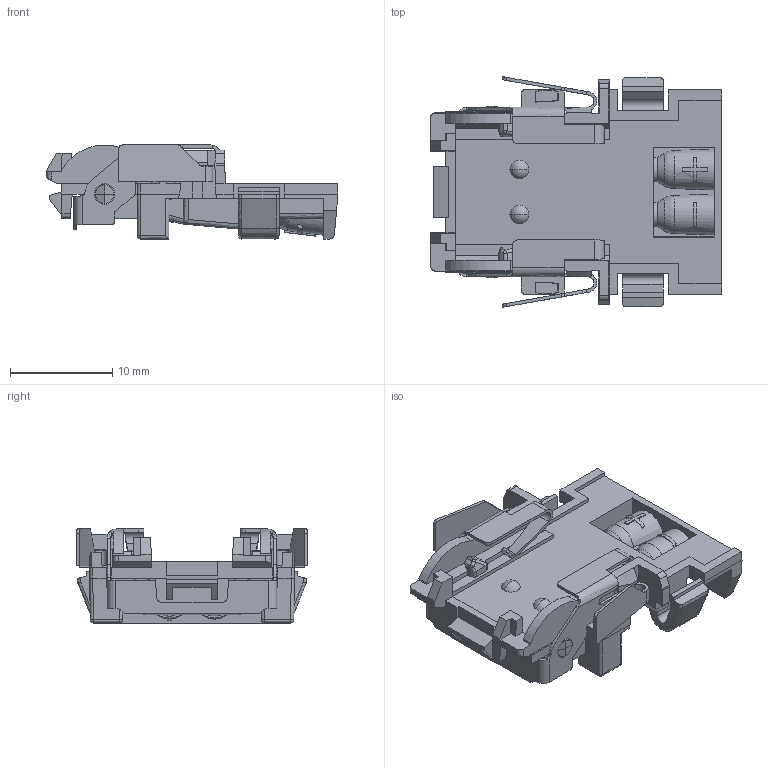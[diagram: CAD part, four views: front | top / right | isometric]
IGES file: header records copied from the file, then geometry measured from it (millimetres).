
Global section: file name: C:\CoreTechnologie\3D-In/022Y602Y0Q.igs; native system: CT CoreTechnologie 3D Evolution; preprocessor: 2006; date: 1191025.073051; units: millimetre
Bounding box: 28.49 x 22.56 x 9.2 mm (x, y, z)
Topology: 2 solids, 2 shells, 901 faces, 2436 edges, 1572 vertices
Faces by surface type: plane 568, revolution 254, bspline 79
